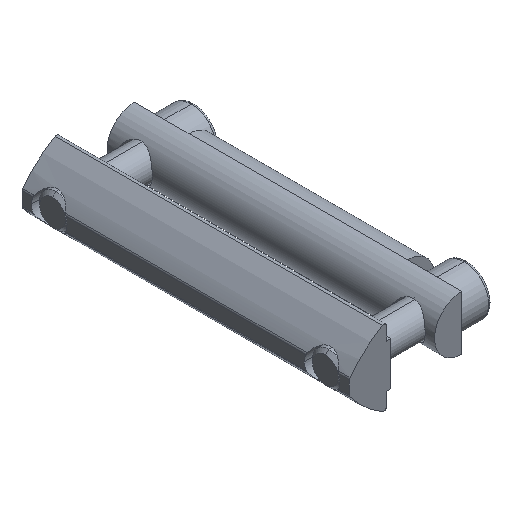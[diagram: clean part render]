
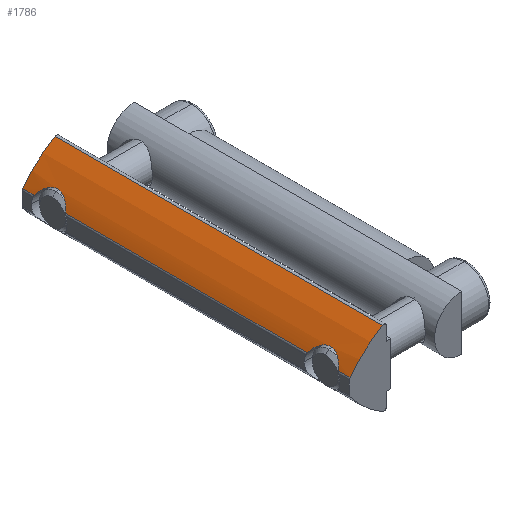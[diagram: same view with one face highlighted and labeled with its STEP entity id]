
A CAD part, isometric view. The second image highlights one B-rep face of the part: STEP entity #1786.
In plain terms, the highlighted cylindrical face has radius 20 mm (diameter 40 mm), a partial arc.
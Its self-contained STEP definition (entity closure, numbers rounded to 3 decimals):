
#8 = CARTESIAN_POINT ( 'NONE',  ( -9.34, 36.435, 33.25 ) ) ;
#72 = FACE_OUTER_BOUND ( 'NONE', #1136, .T. ) ;
#89 = CARTESIAN_POINT ( 'NONE',  ( -9.339, 36.117, 33.25 ) ) ;
#90 = ORIENTED_EDGE ( 'NONE', *, *, #124, .T. ) ;
#124 = EDGE_CURVE ( 'NONE', #2282, #1898, #241, .T. ) ;
#167 = ORIENTED_EDGE ( 'NONE', *, *, #804, .T. ) ;
#190 = VERTEX_POINT ( 'NONE', #1026 ) ;
#195 = CARTESIAN_POINT ( 'NONE',  ( -10.771, 39.128, 31.55 ) ) ;
#241 = LINE ( 'NONE', #2115, #2736 ) ;
#286 = EDGE_CURVE ( 'NONE', #1257, #2282, #1990, .T. ) ;
#292 = CARTESIAN_POINT ( 'NONE',  ( -10.771, -10.872, 31.55 ) ) ;
#299 = ORIENTED_EDGE ( 'NONE', *, *, #1971, .T. ) ;
#306 = DIRECTION ( 'NONE',  ( 0., -1., 0. ) ) ;
#363 = CIRCLE ( 'NONE', #2585, 20. ) ;
#410 = CARTESIAN_POINT ( 'NONE',  ( -10.771, -16.585, 31.55 ) ) ;
#483 = DIRECTION ( 'NONE',  ( 0., 1., 0. ) ) ;
#564 = EDGE_CURVE ( 'NONE', #190, #1608, #1525, .T. ) ;
#588 = CARTESIAN_POINT ( 'NONE',  ( -10.771, -16.585, 31.55 ) ) ;
#711 = EDGE_CURVE ( 'NONE', #1962, #2372, #2389, .T. ) ;
#804 = EDGE_CURVE ( 'NONE', #1608, #1311, #2197, .T. ) ;
#817 = CARTESIAN_POINT ( 'NONE',  ( -9.947, 38.259, 32.575 ) ) ;
#849 = CARTESIAN_POINT ( 'NONE',  ( -9.393, 35.644, 33.193 ) ) ;
#863 = DIRECTION ( 'NONE',  ( 0., 0., -1. ) ) ;
#873 = CARTESIAN_POINT ( 'NONE',  ( -9.561, -12.498, 33.012 ) ) ;
#877 = ORIENTED_EDGE ( 'NONE', *, *, #711, .T. ) ;
#904 = CARTESIAN_POINT ( 'NONE',  ( -10.094, 34.069, 32.405 ) ) ;
#915 = CARTESIAN_POINT ( 'NONE',  ( -9.666, 34.77, 32.897 ) ) ;
#969 = CARTESIAN_POINT ( 'NONE',  ( -10.594, -11., 31.786 ) ) ;
#1024 = CARTESIAN_POINT ( 'NONE',  ( -10.771, 41.271, 31.55 ) ) ;
#1026 = CARTESIAN_POINT ( 'NONE',  ( -4.822, -18.729, 36.832 ) ) ;
#1066 = CARTESIAN_POINT ( 'NONE',  ( 5.217, -18.729, 19.535 ) ) ;
#1074 = CARTESIAN_POINT ( 'NONE',  ( -10.422, -16.302, 32.004 ) ) ;
#1136 = EDGE_LOOP ( 'NONE', ( #2717, #1470, #90, #299, #877, #2233, #2560, #167 ) ) ;
#1139 = LINE ( 'NONE', #2484, #1656 ) ;
#1168 = CARTESIAN_POINT ( 'NONE',  ( -9.548, 35.046, 33.026 ) ) ;
#1257 = VERTEX_POINT ( 'NONE', #195 ) ;
#1311 = VERTEX_POINT ( 'NONE', #1024 ) ;
#1341 = DIRECTION ( 'NONE',  ( 0., -1., 0. ) ) ;
#1365 = CARTESIAN_POINT ( 'NONE',  ( -10.1, -11.527, 32.395 ) ) ;
#1374 = DIRECTION ( 'NONE',  ( 0., 0., -1. ) ) ;
#1419 = CARTESIAN_POINT ( 'NONE',  ( -9.674, -12.228, 32.887 ) ) ;
#1428 = CARTESIAN_POINT ( 'NONE',  ( -9.395, -13.09, 33.191 ) ) ;
#1441 = CARTESIAN_POINT ( 'NONE',  ( -9.339, -13.883, 33.25 ) ) ;
#1445 = CYLINDRICAL_SURFACE ( 'NONE', #2624, 20. ) ;
#1455 = CARTESIAN_POINT ( 'NONE',  ( -10.094, -15.931, 32.405 ) ) ;
#1470 = ORIENTED_EDGE ( 'NONE', *, *, #286, .T. ) ;
#1471 = CARTESIAN_POINT ( 'NONE',  ( -9.393, -14.356, 33.193 ) ) ;
#1475 = CARTESIAN_POINT ( 'NONE',  ( -4.822, 41.271, 36.832 ) ) ;
#1489 = CARTESIAN_POINT ( 'NONE',  ( -9.427, -12.938, 33.156 ) ) ;
#1502 = CARTESIAN_POINT ( 'NONE',  ( -9.34, -13.565, 33.25 ) ) ;
#1525 = LINE ( 'NONE', #1475, #2790 ) ;
#1593 = CARTESIAN_POINT ( 'NONE',  ( -9.35, 35.958, 33.239 ) ) ;
#1604 = CARTESIAN_POINT ( 'NONE',  ( -9.351, -13.403, 33.238 ) ) ;
#1608 = VERTEX_POINT ( 'NONE', #1667 ) ;
#1617 = CARTESIAN_POINT ( 'NONE',  ( -9.51, -12.642, 33.067 ) ) ;
#1634 = CARTESIAN_POINT ( 'NONE',  ( -9.351, 36.597, 33.238 ) ) ;
#1637 = DIRECTION ( 'NONE',  ( 0., 1., 0. ) ) ;
#1651 = CARTESIAN_POINT ( 'NONE',  ( -9.426, -14.511, 33.158 ) ) ;
#1656 = VECTOR ( 'NONE', #2510, 1000. ) ;
#1667 = CARTESIAN_POINT ( 'NONE',  ( -4.822, 41.271, 36.832 ) ) ;
#1738 = CARTESIAN_POINT ( 'NONE',  ( 5.217, 41.271, 19.535 ) ) ;
#1786 = ADVANCED_FACE ( 'NONE', ( #72 ), #1445, .T. ) ;
#1844 = DIRECTION ( 'NONE',  ( 0., -1., 0. ) ) ;
#1858 = CARTESIAN_POINT ( 'NONE',  ( -10.771, 33.415, 31.55 ) ) ;
#1874 = AXIS2_PLACEMENT_3D ( 'NONE', #1738, #306, #2271 ) ;
#1898 = VERTEX_POINT ( 'NONE', #292 ) ;
#1906 = CARTESIAN_POINT ( 'NONE',  ( -9.937, -15.715, 32.588 ) ) ;
#1962 = VERTEX_POINT ( 'NONE', #410 ) ;
#1971 = EDGE_CURVE ( 'NONE', #1898, #1962, #2302, .T. ) ;
#1979 = CARTESIAN_POINT ( 'NONE',  ( -9.737, -12.1, 32.816 ) ) ;
#1990 = B_SPLINE_CURVE_WITH_KNOTS ( 'NONE', 3,
 ( #2261, #2548, #2313, #2295, #2301, #817, #2290, #2329, #2328, #2322, #2318, #2001, #2695, #1634, #8, #89, #1593, #849, #2520, #1168, #915, #2629, #904, #2524, #2402, #2664 ),
 .UNSPECIFIED., .F., .F.,
 ( 4, 2, 2, 2, 2, 2, 2, 2, 2, 2, 2, 2, 4 ),
 ( 0., 0.001, 0.001, 0.002, 0.002, 0.003, 0.003, 0.004, 0.004, 0.005, 0.006, 0.007, 0.008 ),
 .UNSPECIFIED. ) ;
#2001 = CARTESIAN_POINT ( 'NONE',  ( -9.427, 37.062, 33.156 ) ) ;
#2017 = CARTESIAN_POINT ( 'NONE',  ( -10.771, 41.271, 31.55 ) ) ;
#2101 = CARTESIAN_POINT ( 'NONE',  ( -10.771, -10.872, 31.55 ) ) ;
#2115 = CARTESIAN_POINT ( 'NONE',  ( -10.771, 41.271, 31.55 ) ) ;
#2149 = CARTESIAN_POINT ( 'NONE',  ( -9.666, -15.23, 32.897 ) ) ;
#2161 = CARTESIAN_POINT ( 'NONE',  ( -10.771, -18.729, 31.55 ) ) ;
#2197 = CIRCLE ( 'NONE', #1874, 20. ) ;
#2233 = ORIENTED_EDGE ( 'NONE', *, *, #2646, .T. ) ;
#2261 = CARTESIAN_POINT ( 'NONE',  ( -10.771, 39.128, 31.55 ) ) ;
#2270 = CARTESIAN_POINT ( 'NONE',  ( -9.947, -11.741, 32.575 ) ) ;
#2271 = DIRECTION ( 'NONE',  ( 0., 0., -1. ) ) ;
#2282 = VERTEX_POINT ( 'NONE', #1858 ) ;
#2290 = CARTESIAN_POINT ( 'NONE',  ( -9.873, 38.143, 32.661 ) ) ;
#2294 = CARTESIAN_POINT ( 'NONE',  ( -9.873, -11.857, 32.661 ) ) ;
#2295 = CARTESIAN_POINT ( 'NONE',  ( -10.18, 38.571, 32.3 ) ) ;
#2301 = CARTESIAN_POINT ( 'NONE',  ( -10.1, 38.473, 32.395 ) ) ;
#2302 = B_SPLINE_CURVE_WITH_KNOTS ( 'NONE', 3,
 ( #2101, #969, #2321, #2312, #1365, #2270, #2294, #1979, #1419, #873, #1617, #1489, #1428, #1604, #1502, #1441, #2778, #1471, #1651, #2823, #2149, #1906, #1455, #1074, #2421, #588 ),
 .UNSPECIFIED., .F., .F.,
 ( 4, 2, 2, 2, 2, 2, 2, 2, 2, 2, 2, 2, 4 ),
 ( 0., 0.001, 0.001, 0.002, 0.002, 0.003, 0.003, 0.004, 0.004, 0.005, 0.006, 0.007, 0.008 ),
 .UNSPECIFIED. ) ;
#2312 = CARTESIAN_POINT ( 'NONE',  ( -10.18, -11.429, 32.3 ) ) ;
#2313 = CARTESIAN_POINT ( 'NONE',  ( -10.423, 38.846, 32.002 ) ) ;
#2318 = CARTESIAN_POINT ( 'NONE',  ( -9.51, 37.358, 33.067 ) ) ;
#2321 = CARTESIAN_POINT ( 'NONE',  ( -10.423, -11.154, 32.002 ) ) ;
#2322 = CARTESIAN_POINT ( 'NONE',  ( -9.561, 37.502, 33.012 ) ) ;
#2328 = CARTESIAN_POINT ( 'NONE',  ( -9.674, 37.772, 32.887 ) ) ;
#2329 = CARTESIAN_POINT ( 'NONE',  ( -9.737, 37.9, 32.816 ) ) ;
#2372 = VERTEX_POINT ( 'NONE', #2161 ) ;
#2389 = LINE ( 'NONE', #2017, #2542 ) ;
#2402 = CARTESIAN_POINT ( 'NONE',  ( -10.594, 33.543, 31.786 ) ) ;
#2421 = CARTESIAN_POINT ( 'NONE',  ( -10.594, -16.457, 31.786 ) ) ;
#2481 = CARTESIAN_POINT ( 'NONE',  ( 5.217, 41.271, 19.535 ) ) ;
#2484 = CARTESIAN_POINT ( 'NONE',  ( -10.771, 41.271, 31.55 ) ) ;
#2510 = DIRECTION ( 'NONE',  ( 0., -1., 0. ) ) ;
#2520 = CARTESIAN_POINT ( 'NONE',  ( -9.426, 35.489, 33.158 ) ) ;
#2524 = CARTESIAN_POINT ( 'NONE',  ( -10.422, 33.698, 32.004 ) ) ;
#2542 = VECTOR ( 'NONE', #1844, 1000. ) ;
#2548 = CARTESIAN_POINT ( 'NONE',  ( -10.594, 39., 31.786 ) ) ;
#2560 = ORIENTED_EDGE ( 'NONE', *, *, #564, .T. ) ;
#2585 = AXIS2_PLACEMENT_3D ( 'NONE', #1066, #483, #1374 ) ;
#2624 = AXIS2_PLACEMENT_3D ( 'NONE', #2481, #2806, #863 ) ;
#2629 = CARTESIAN_POINT ( 'NONE',  ( -9.937, 34.285, 32.588 ) ) ;
#2646 = EDGE_CURVE ( 'NONE', #2372, #190, #363, .T. ) ;
#2664 = CARTESIAN_POINT ( 'NONE',  ( -10.771, 33.415, 31.55 ) ) ;
#2695 = CARTESIAN_POINT ( 'NONE',  ( -9.395, 36.91, 33.191 ) ) ;
#2696 = EDGE_CURVE ( 'NONE', #1311, #1257, #1139, .T. ) ;
#2717 = ORIENTED_EDGE ( 'NONE', *, *, #2696, .T. ) ;
#2736 = VECTOR ( 'NONE', #1341, 1000. ) ;
#2778 = CARTESIAN_POINT ( 'NONE',  ( -9.35, -14.042, 33.239 ) ) ;
#2790 = VECTOR ( 'NONE', #1637, 1000. ) ;
#2806 = DIRECTION ( 'NONE',  ( 0., -1., 0. ) ) ;
#2823 = CARTESIAN_POINT ( 'NONE',  ( -9.548, -14.954, 33.026 ) ) ;
